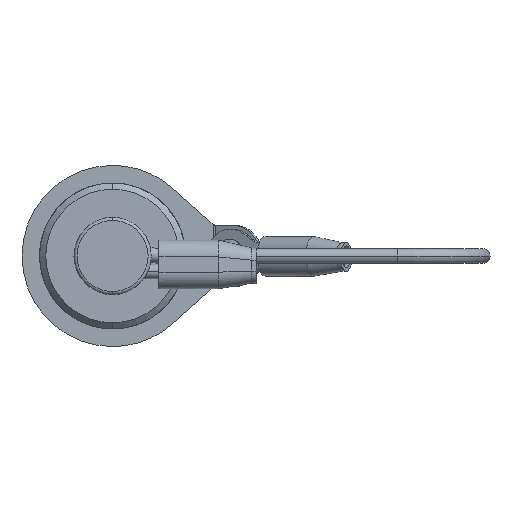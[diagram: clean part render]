
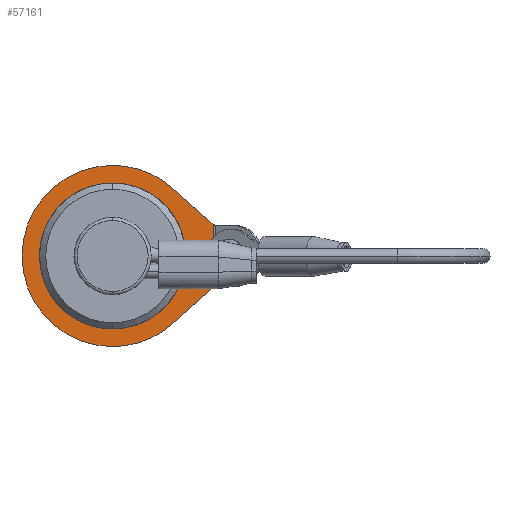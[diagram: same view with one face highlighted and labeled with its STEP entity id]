
A CAD part, left-side view. The second image highlights one B-rep face of the part: STEP entity #57161.
In plain terms, the highlighted planar face has unit normal (-1, 0, 0) as drawn and (0, 0, 1) by its records, which use the part's own axes.
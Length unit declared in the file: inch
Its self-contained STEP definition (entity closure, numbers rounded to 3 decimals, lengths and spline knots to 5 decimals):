
#383 = CARTESIAN_POINT ( 'NONE',  ( 0., 0., 0.01378 ) ) ;
#1473 = EDGE_CURVE ( 'NONE', #30531, #64546, #64804, .T. ) ;
#2094 = EDGE_CURVE ( 'NONE', #5704, #57954, #52326, .T. ) ;
#2749 = CARTESIAN_POINT ( 'NONE',  ( 0.19685, -0.66142, 0.01378 ) ) ;
#4516 = DIRECTION ( 'NONE',  ( 0., 0., 1. ) ) ;
#4616 = DIRECTION ( 'NONE',  ( 1., 0., 0. ) ) ;
#4811 = EDGE_LOOP ( 'NONE', ( #51665, #53527 ) ) ;
#5263 = CARTESIAN_POINT ( 'NONE',  ( 0., 0., 0.01378 ) ) ;
#5704 = VERTEX_POINT ( 'NONE', #31933 ) ;
#6493 = CARTESIAN_POINT ( 'NONE',  ( 0.45669, 0., 0.01378 ) ) ;
#8590 = CARTESIAN_POINT ( 'NONE',  ( 0., 0., 0.01378 ) ) ;
#8696 = EDGE_LOOP ( 'NONE', ( #42311, #9358, #11945, #35362, #61915, #24948 ) ) ;
#9358 = ORIENTED_EDGE ( 'NONE', *, *, #48201, .T. ) ;
#10843 = CARTESIAN_POINT ( 'NONE',  ( -0.43837, -0.3898, 0.01378 ) ) ;
#11945 = ORIENTED_EDGE ( 'NONE', *, *, #16477, .T. ) ;
#12631 = DIRECTION ( 'NONE',  ( 0.664, 0.747, 0. ) ) ;
#13187 = DIRECTION ( 'NONE',  ( 1., 0., 0. ) ) ;
#14330 = DIRECTION ( 'NONE',  ( 0.664, -0.747, 0. ) ) ;
#15152 = DIRECTION ( 'NONE',  ( 0., 0., 1. ) ) ;
#15664 = DIRECTION ( 'NONE',  ( 0., 0., 1. ) ) ;
#16169 = AXIS2_PLACEMENT_3D ( 'NONE', #30796, #15664, #25544 ) ;
#16477 = EDGE_CURVE ( 'NONE', #27964, #34209, #38039, .T. ) ;
#16857 = VECTOR ( 'NONE', #14330, 39.37008 ) ;
#18622 = AXIS2_PLACEMENT_3D ( 'NONE', #383, #54383, #24434 ) ;
#19726 = DIRECTION ( 'NONE',  ( 0., 0., 1. ) ) ;
#19790 = VERTEX_POINT ( 'NONE', #34090 ) ;
#22639 = DIRECTION ( 'NONE',  ( 0., 0., 1. ) ) ;
#23607 = FACE_OUTER_BOUND ( 'NONE', #8696, .T. ) ;
#24434 = DIRECTION ( 'NONE',  ( 1., 0., 0. ) ) ;
#24948 = ORIENTED_EDGE ( 'NONE', *, *, #42221, .T. ) ;
#25544 = DIRECTION ( 'NONE',  ( 1., 0., 0. ) ) ;
#27577 = CARTESIAN_POINT ( 'NONE',  ( 0., -0.65022, 0.01378 ) ) ;
#27908 = CARTESIAN_POINT ( 'NONE',  ( 0.58661, 0., 0.01378 ) ) ;
#27964 = VERTEX_POINT ( 'NONE', #55628 ) ;
#29225 = AXIS2_PLACEMENT_3D ( 'NONE', #8590, #19726, #13187 ) ;
#30531 = VERTEX_POINT ( 'NONE', #6493 ) ;
#30796 = CARTESIAN_POINT ( 'NONE',  ( 0., 0., 0.01378 ) ) ;
#31933 = CARTESIAN_POINT ( 'NONE',  ( -0.58661, 0., 0.01378 ) ) ;
#33183 = CARTESIAN_POINT ( 'NONE',  ( 0., -0.81102, 0.01378 ) ) ;
#33243 = EDGE_CURVE ( 'NONE', #40249, #19790, #53237, .T. ) ;
#34090 = CARTESIAN_POINT ( 'NONE',  ( -0.20681, -0.65022, 0.01378 ) ) ;
#34209 = VERTEX_POINT ( 'NONE', #27908 ) ;
#35362 = ORIENTED_EDGE ( 'NONE', *, *, #36377, .T. ) ;
#36377 = EDGE_CURVE ( 'NONE', #34209, #5704, #59257, .T. ) ;
#38039 = CIRCLE ( 'NONE', #52752, 0.58661 ) ;
#38354 = EDGE_CURVE ( 'NONE', #64546, #30531, #57580, .T. ) ;
#38754 = DIRECTION ( 'NONE',  ( 1., 0., 0. ) ) ;
#38773 = DIRECTION ( 'NONE',  ( 1., 0., 0. ) ) ;
#39663 = CARTESIAN_POINT ( 'NONE',  ( -0.19685, -0.66142, 0.01378 ) ) ;
#40249 = VERTEX_POINT ( 'NONE', #55339 ) ;
#42221 = EDGE_CURVE ( 'NONE', #57954, #19790, #49557, .T. ) ;
#42311 = ORIENTED_EDGE ( 'NONE', *, *, #33243, .F. ) ;
#42510 = CARTESIAN_POINT ( 'NONE',  ( -0.45669, 0., 0.01378 ) ) ;
#48201 = EDGE_CURVE ( 'NONE', #40249, #27964, #62277, .T. ) ;
#48315 = DIRECTION ( 'NONE',  ( -1., 0., 0. ) ) ;
#49557 = LINE ( 'NONE', #39663, #16857 ) ;
#51665 = ORIENTED_EDGE ( 'NONE', *, *, #1473, .F. ) ;
#51738 = VECTOR ( 'NONE', #12631, 39.37008 ) ;
#52326 = CIRCLE ( 'NONE', #53369, 0.58661 ) ;
#52752 = AXIS2_PLACEMENT_3D ( 'NONE', #5263, #15152, #4616 ) ;
#52766 = VECTOR ( 'NONE', #48315, 39.37008 ) ;
#53237 = LINE ( 'NONE', #27577, #52766 ) ;
#53369 = AXIS2_PLACEMENT_3D ( 'NONE', #54872, #4516, #38773 ) ;
#53527 = ORIENTED_EDGE ( 'NONE', *, *, #38354, .F. ) ;
#54383 = DIRECTION ( 'NONE',  ( 0., 0., 1. ) ) ;
#54872 = CARTESIAN_POINT ( 'NONE',  ( 0., 0., 0.01378 ) ) ;
#55339 = CARTESIAN_POINT ( 'NONE',  ( 0.20681, -0.65022, 0.01378 ) ) ;
#55628 = CARTESIAN_POINT ( 'NONE',  ( 0.43837, -0.3898, 0.01378 ) ) ;
#57161 = ADVANCED_FACE ( 'NONE', ( #23607, #63380 ), #58159, .T. ) ;
#57580 = CIRCLE ( 'NONE', #29225, 0.45669 ) ;
#57954 = VERTEX_POINT ( 'NONE', #10843 ) ;
#58159 = PLANE ( 'NONE',  #61535 ) ;
#59257 = CIRCLE ( 'NONE', #16169, 0.58661 ) ;
#61535 = AXIS2_PLACEMENT_3D ( 'NONE', #33183, #22639, #38754 ) ;
#61915 = ORIENTED_EDGE ( 'NONE', *, *, #2094, .T. ) ;
#62277 = LINE ( 'NONE', #2749, #51738 ) ;
#63380 = FACE_BOUND ( 'NONE', #4811, .T. ) ;
#64546 = VERTEX_POINT ( 'NONE', #42510 ) ;
#64804 = CIRCLE ( 'NONE', #18622, 0.45669 ) ;
